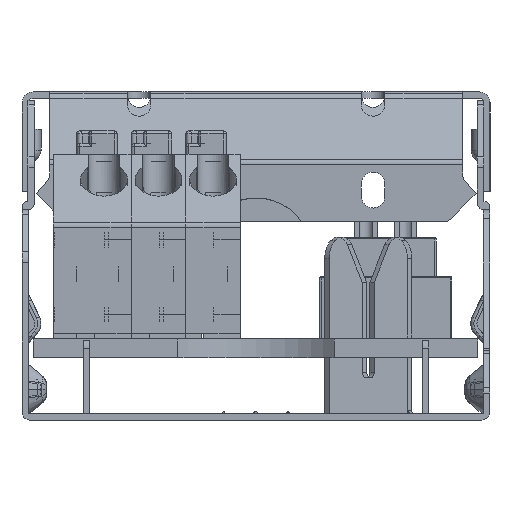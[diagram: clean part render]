
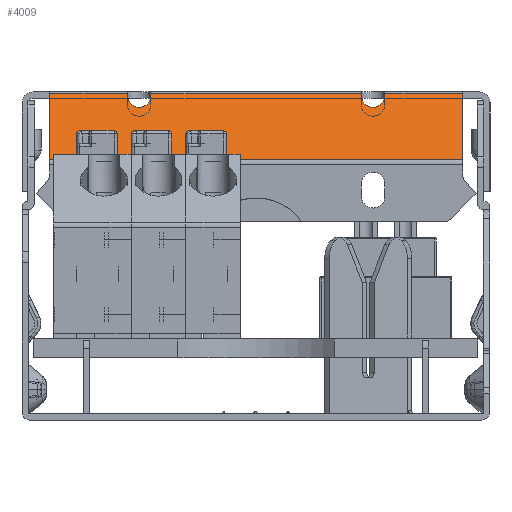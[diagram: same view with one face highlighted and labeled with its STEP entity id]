
A CAD part, left-side view. The second image highlights one B-rep face of the part: STEP entity #4009.
In plain terms, the highlighted planar face has unit normal (-0.707, 0, 0.707).
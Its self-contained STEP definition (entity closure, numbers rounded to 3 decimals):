
#354=ELLIPSE('',#35035,1.061,0.75);
#355=ELLIPSE('',#35036,1.061,0.75);
#356=ELLIPSE('',#35037,1.061,0.75);
#357=ELLIPSE('',#35038,1.061,0.75);
#1815=FACE_OUTER_BOUND('',#7121,.T.);
#4009=ADVANCED_FACE('',(#1815),#5495,.F.);
#5495=PLANE('',#35039);
#7121=EDGE_LOOP('',(#13208,#13209,#13210,#13211,#13212,#13213,#13214,#13215,
#13216,#13217,#13218,#13219,#13220,#13221));
#13208=ORIENTED_EDGE('',*,*,#24460,.T.);
#13209=ORIENTED_EDGE('',*,*,#24461,.T.);
#13210=ORIENTED_EDGE('',*,*,#24462,.F.);
#13211=ORIENTED_EDGE('',*,*,#24459,.F.);
#13212=ORIENTED_EDGE('',*,*,#24456,.F.);
#13213=ORIENTED_EDGE('',*,*,#24463,.F.);
#13214=ORIENTED_EDGE('',*,*,#24464,.F.);
#13215=ORIENTED_EDGE('',*,*,#24465,.F.);
#13216=ORIENTED_EDGE('',*,*,#24466,.F.);
#13217=ORIENTED_EDGE('',*,*,#24467,.F.);
#13218=ORIENTED_EDGE('',*,*,#24468,.F.);
#13219=ORIENTED_EDGE('',*,*,#24469,.F.);
#13220=ORIENTED_EDGE('',*,*,#24470,.F.);
#13221=ORIENTED_EDGE('',*,*,#24471,.F.);
#20645=VERTEX_POINT('',#60784);
#20646=VERTEX_POINT('',#60786);
#20647=VERTEX_POINT('',#60790);
#20648=VERTEX_POINT('',#60794);
#20649=VERTEX_POINT('',#60795);
#20650=VERTEX_POINT('',#60797);
#20651=VERTEX_POINT('',#60800);
#20652=VERTEX_POINT('',#60802);
#20653=VERTEX_POINT('',#60804);
#20654=VERTEX_POINT('',#60806);
#20655=VERTEX_POINT('',#60808);
#20656=VERTEX_POINT('',#60810);
#20657=VERTEX_POINT('',#60812);
#20658=VERTEX_POINT('',#60814);
#24456=EDGE_CURVE('',#20645,#20646,#28604,.T.);
#24459=EDGE_CURVE('',#20646,#20647,#28605,.T.);
#24460=EDGE_CURVE('',#20648,#20649,#354,.T.);
#24461=EDGE_CURVE('',#20649,#20650,#355,.T.);
#24462=EDGE_CURVE('',#20647,#20650,#28606,.T.);
#24463=EDGE_CURVE('',#20651,#20645,#28607,.T.);
#24464=EDGE_CURVE('',#20652,#20651,#28608,.T.);
#24465=EDGE_CURVE('',#20653,#20652,#28609,.T.);
#24466=EDGE_CURVE('',#20654,#20653,#28610,.T.);
#24467=EDGE_CURVE('',#20655,#20654,#356,.T.);
#24468=EDGE_CURVE('',#20656,#20655,#357,.T.);
#24469=EDGE_CURVE('',#20657,#20656,#28611,.T.);
#24470=EDGE_CURVE('',#20658,#20657,#28612,.T.);
#24471=EDGE_CURVE('',#20648,#20658,#28613,.T.);
#28604=LINE('',#60785,#31856);
#28605=LINE('',#60791,#31857);
#28606=LINE('',#60798,#31858);
#28607=LINE('',#60799,#31859);
#28608=LINE('',#60801,#31860);
#28609=LINE('',#60803,#31861);
#28610=LINE('',#60805,#31862);
#28611=LINE('',#60811,#31863);
#28612=LINE('',#60813,#31864);
#28613=LINE('',#60815,#31865);
#31856=VECTOR('',#40300,1.);
#31857=VECTOR('',#40307,1.);
#31858=VECTOR('',#40314,1.);
#31859=VECTOR('',#40315,1.);
#31860=VECTOR('',#40316,1.);
#31861=VECTOR('',#40317,1.);
#31862=VECTOR('',#40318,1.);
#31863=VECTOR('',#40323,1.);
#31864=VECTOR('',#40324,1.);
#31865=VECTOR('',#40325,1.);
#35035=AXIS2_PLACEMENT_3D('',#60793,#40310,#40311);
#35036=AXIS2_PLACEMENT_3D('',#60796,#40312,#40313);
#35037=AXIS2_PLACEMENT_3D('',#60807,#40319,#40320);
#35038=AXIS2_PLACEMENT_3D('',#60809,#40321,#40322);
#35039=AXIS2_PLACEMENT_3D('',#60816,#40326,#40327);
#40300=DIRECTION('',(0.707,0.,0.707));
#40307=DIRECTION('',(0.,-1.,0.));
#40310=DIRECTION('',(0.707,0.,-0.707));
#40311=DIRECTION('',(0.707,0.,0.707));
#40312=DIRECTION('',(0.707,0.,-0.707));
#40313=DIRECTION('',(0.707,0.,0.707));
#40314=DIRECTION('',(-0.707,0.,-0.707));
#40315=DIRECTION('',(0.,1.,0.));
#40316=DIRECTION('',(-0.707,0.,-0.707));
#40317=DIRECTION('',(0.,-1.,0.));
#40318=DIRECTION('',(0.707,0.,0.707));
#40319=DIRECTION('',(-0.707,0.,0.707));
#40320=DIRECTION('',(0.707,0.,0.707));
#40321=DIRECTION('',(-0.707,0.,0.707));
#40322=DIRECTION('',(0.707,0.,0.707));
#40323=DIRECTION('',(-0.707,0.,-0.707));
#40324=DIRECTION('',(0.,-1.,0.));
#40325=DIRECTION('',(0.707,0.,0.707));
#40326=DIRECTION('',(0.707,0.,-0.707));
#40327=DIRECTION('',(0.707,0.,0.707));
#60784=CARTESIAN_POINT('',(-246.636,-2031.521,-4.36));
#60785=CARTESIAN_POINT('',(-246.636,-2031.521,-4.36));
#60786=CARTESIAN_POINT('',(-242.394,-2031.521,-0.117));
#60790=CARTESIAN_POINT('',(-242.394,-2036.521,-0.117));
#60791=CARTESIAN_POINT('',(-242.394,-2031.521,-0.117));
#60793=CARTESIAN_POINT('',(-242.511,-2037.271,-0.234));
#60794=CARTESIAN_POINT('',(-242.511,-2038.021,-0.234));
#60795=CARTESIAN_POINT('',(-243.261,-2037.271,-0.984));
#60796=CARTESIAN_POINT('',(-242.511,-2037.271,-0.234));
#60797=CARTESIAN_POINT('',(-242.511,-2036.521,-0.234));
#60798=CARTESIAN_POINT('',(-242.394,-2036.521,-0.117));
#60799=CARTESIAN_POINT('',(-246.636,-2058.021,-4.36));
#60800=CARTESIAN_POINT('',(-246.636,-2058.021,-4.36));
#60801=CARTESIAN_POINT('',(-242.394,-2058.021,-0.117));
#60802=CARTESIAN_POINT('',(-242.394,-2058.021,-0.117));
#60803=CARTESIAN_POINT('',(-242.394,-2053.021,-0.117));
#60804=CARTESIAN_POINT('',(-242.394,-2053.021,-0.117));
#60805=CARTESIAN_POINT('',(-242.511,-2053.021,-0.234));
#60806=CARTESIAN_POINT('',(-242.511,-2053.021,-0.234));
#60807=CARTESIAN_POINT('',(-242.511,-2052.271,-0.234));
#60808=CARTESIAN_POINT('',(-243.261,-2052.271,-0.984));
#60809=CARTESIAN_POINT('',(-242.511,-2052.271,-0.234));
#60810=CARTESIAN_POINT('',(-242.511,-2051.521,-0.234));
#60811=CARTESIAN_POINT('',(-242.394,-2051.521,-0.117));
#60812=CARTESIAN_POINT('',(-242.394,-2051.521,-0.117));
#60813=CARTESIAN_POINT('',(-242.394,-2038.021,-0.117));
#60814=CARTESIAN_POINT('',(-242.394,-2038.021,-0.117));
#60815=CARTESIAN_POINT('',(-242.511,-2038.021,-0.234));
#60816=CARTESIAN_POINT('',(-246.636,-1931.261,-4.36));
